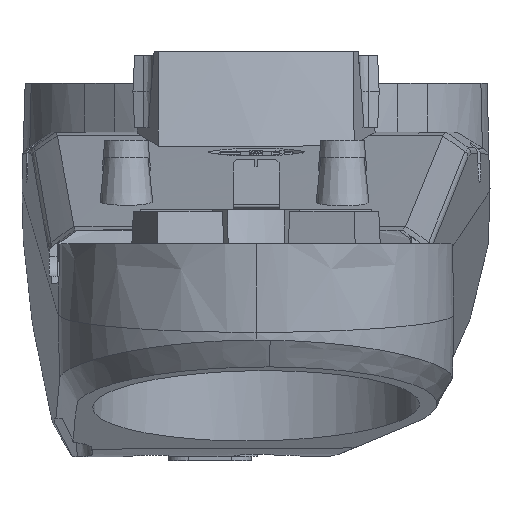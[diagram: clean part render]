
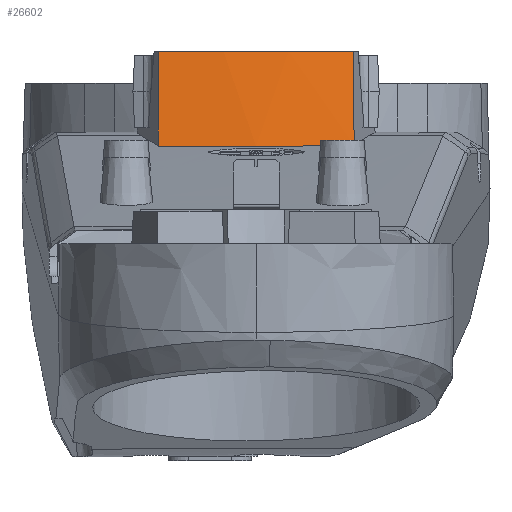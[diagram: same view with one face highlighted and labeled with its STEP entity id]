
A CAD part, top view. The second image highlights one B-rep face of the part: STEP entity #26602.
In plain terms, the highlighted conical face has half-angle 12 degrees and reference radius 650 mm.
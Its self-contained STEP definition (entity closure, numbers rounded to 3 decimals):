
#493 = B_SPLINE_CURVE_WITH_KNOTS ( 'NONE', 3,
 ( #10252, #12588, #18386, #27058 ),
 .UNSPECIFIED., .F., .F.,
 ( 4, 4 ),
 ( 0.437, 0.504 ),
 .UNSPECIFIED. ) ;
#812 = EDGE_LOOP ( 'NONE', ( #11820, #13412, #25523, #11572 ) ) ;
#1213 = B_SPLINE_CURVE_WITH_KNOTS ( 'NONE', 3,
 ( #10509, #10381, #8183, #8316, #8050, #8448, #12581, #24968, #16443, #12170, #1575, #3647, #20842, #26779, #24831, #3910 ),
 .UNSPECIFIED., .F., .F.,
 ( 4, 2, 2, 1, 1, 1, 1, 2, 2, 4 ),
 ( 0., 0.25, 0.375, 0.438, 0.469, 0.484, 0.492, 0.496, 0.5, 1. ),
 .UNSPECIFIED. ) ;
#1306 = CIRCLE ( 'NONE', #25483, 650.85 ) ;
#1575 = CARTESIAN_POINT ( 'NONE',  ( 279.298, -129.19, 958.919 ) ) ;
#1967 = CONICAL_SURFACE ( 'NONE', #27070, 650., 0.209 ) ;
#2017 = CARTESIAN_POINT ( 'NONE',  ( 212.275, -63., 941.317 ) ) ;
#2892 = DIRECTION ( 'NONE',  ( 1., 0., 0. ) ) ;
#3647 = CARTESIAN_POINT ( 'NONE',  ( 279.651, -129.188, 958.919 ) ) ;
#3910 = CARTESIAN_POINT ( 'NONE',  ( 348.023, -128.39, 955.26 ) ) ;
#4979 = FACE_OUTER_BOUND ( 'NONE', #812, .T. ) ;
#5220 = VERTEX_POINT ( 'NONE', #2017 ) ;
#5249 = CARTESIAN_POINT ( 'NONE',  ( 280., -59., 294. ) ) ;
#7692 = CARTESIAN_POINT ( 'NONE',  ( 347.725, -63., 941.317 ) ) ;
#8050 = CARTESIAN_POINT ( 'NONE',  ( 257.377, -129.217, 958.564 ) ) ;
#8183 = CARTESIAN_POINT ( 'NONE',  ( 234.693, -129.136, 957.46 ) ) ;
#8217 = DIRECTION ( 'NONE',  ( -1., 0., 0. ) ) ;
#8316 = CARTESIAN_POINT ( 'NONE',  ( 251.709, -129.205, 958.345 ) ) ;
#8448 = CARTESIAN_POINT ( 'NONE',  ( 265.87, -129.218, 958.781 ) ) ;
#9418 = CARTESIAN_POINT ( 'NONE',  ( 348.023, -128.39, 955.26 ) ) ;
#9467 = CARTESIAN_POINT ( 'NONE',  ( 347.825, -84.797, 945.965 ) ) ;
#10015 = CARTESIAN_POINT ( 'NONE',  ( 348.023, -128.39, 955.26 ) ) ;
#10252 = CARTESIAN_POINT ( 'NONE',  ( 212.275, -63., 941.317 ) ) ;
#10381 = CARTESIAN_POINT ( 'NONE',  ( 223.333, -129.046, 956.568 ) ) ;
#10509 = CARTESIAN_POINT ( 'NONE',  ( 211.974, -128.913, 955.371 ) ) ;
#10678 = DIRECTION ( 'NONE',  ( 0., -1., 0. ) ) ;
#10998 = EDGE_CURVE ( 'NONE', #22514, #16093, #1213, .T. ) ;
#11572 = ORIENTED_EDGE ( 'NONE', *, *, #10998, .T. ) ;
#11820 = ORIENTED_EDGE ( 'NONE', *, *, #21165, .F. ) ;
#12170 = CARTESIAN_POINT ( 'NONE',  ( 278.768, -129.191, 958.919 ) ) ;
#12233 = B_SPLINE_CURVE_WITH_KNOTS ( 'NONE', 3,
 ( #7692, #9467, #24470, #10015 ),
 .UNSPECIFIED., .F., .F.,
 ( 4, 4 ),
 ( 0.434, 0.501 ),
 .UNSPECIFIED. ) ;
#12581 = CARTESIAN_POINT ( 'NONE',  ( 270.114, -129.214, 958.862 ) ) ;
#12588 = CARTESIAN_POINT ( 'NONE',  ( 212.175, -84.971, 946.002 ) ) ;
#12896 = EDGE_CURVE ( 'NONE', #5220, #22514, #493, .T. ) ;
#13412 = ORIENTED_EDGE ( 'NONE', *, *, #20630, .T. ) ;
#13499 = DIRECTION ( 'NONE',  ( 0., -1., 0. ) ) ;
#16093 = VERTEX_POINT ( 'NONE', #9418 ) ;
#16443 = CARTESIAN_POINT ( 'NONE',  ( 277.533, -129.196, 958.917 ) ) ;
#17488 = VERTEX_POINT ( 'NONE', #23559 ) ;
#18386 = CARTESIAN_POINT ( 'NONE',  ( 212.074, -106.942, 950.687 ) ) ;
#20630 = EDGE_CURVE ( 'NONE', #17488, #5220, #1306, .T. ) ;
#20744 = CARTESIAN_POINT ( 'NONE',  ( 280., -63., 294. ) ) ;
#20842 = CARTESIAN_POINT ( 'NONE',  ( 279.826, -129.188, 958.919 ) ) ;
#21165 = EDGE_CURVE ( 'NONE', #17488, #16093, #12233, .T. ) ;
#22514 = VERTEX_POINT ( 'NONE', #25098 ) ;
#23559 = CARTESIAN_POINT ( 'NONE',  ( 347.725, -63., 941.317 ) ) ;
#24470 = CARTESIAN_POINT ( 'NONE',  ( 347.924, -106.593, 950.612 ) ) ;
#24831 = CARTESIAN_POINT ( 'NONE',  ( 325.519, -128.836, 957.67 ) ) ;
#24968 = CARTESIAN_POINT ( 'NONE',  ( 275.06, -129.203, 958.906 ) ) ;
#25098 = CARTESIAN_POINT ( 'NONE',  ( 211.974, -128.913, 955.371 ) ) ;
#25483 = AXIS2_PLACEMENT_3D ( 'NONE', #20744, #10678, #8217 ) ;
#25523 = ORIENTED_EDGE ( 'NONE', *, *, #12896, .T. ) ;
#26602 = ADVANCED_FACE ( 'NONE', ( #4979 ), #1967, .T. ) ;
#26779 = CARTESIAN_POINT ( 'NONE',  ( 302.802, -129.101, 958.9 ) ) ;
#27058 = CARTESIAN_POINT ( 'NONE',  ( 211.974, -128.913, 955.371 ) ) ;
#27070 = AXIS2_PLACEMENT_3D ( 'NONE', #5249, #13499, #2892 ) ;
